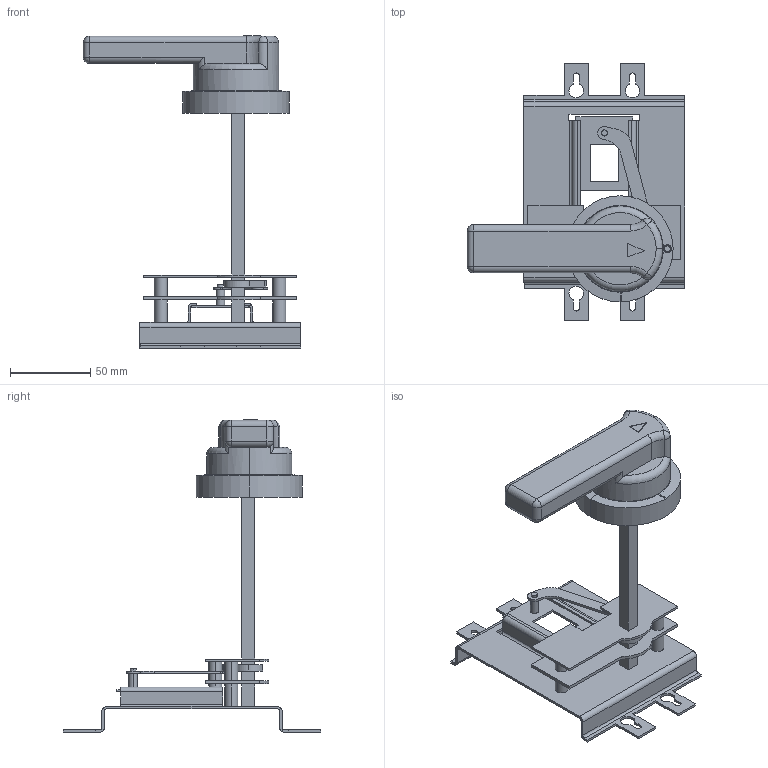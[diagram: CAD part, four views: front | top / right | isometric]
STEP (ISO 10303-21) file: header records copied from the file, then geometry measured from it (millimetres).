
FILE_DESCRIPTION (( 'STEP AP203' ), '1' );
FILE_NAME ('Ðó÷íîé ïîâîðîòíûé ïðèâîä ýêñöåíòðèêîì ê ÂÀ-99Ì 250À.STEP', '2018-06-07T10:40:30', ( '' ), ( '' ), 'SwSTEP 2.0', 'SolidWorks 2017', '' );
FILE_SCHEMA (( 'CONFIG_CONTROL_DESIGN' ));
Length unit declared in the file: millimetre
Products named in the file (1): Ðó÷íîé ïîâîðîòíûé ïðèâîä ýêñöåíòðèêîì ê ÂÀ-99Ì 250À
Bounding box: 135.28 x 160 x 194.2 mm (x, y, z)
Volume: 193960.6 mm3; surface area: 74130.3 mm2
Topology: 1 solids, 1 shells, 241 faces, 665 edges, 431 vertices
Faces by surface type: plane 141, cylinder 79, torus 6, sphere 6, cone 5, bspline 4
Entity records: 7978 total; most frequent: CARTESIAN_POINT 1656, ORIENTED_EDGE 1314, DIRECTION 1279, EDGE_CURVE 657, LINE 451, VECTOR 451, VERTEX_POINT 429, AXIS2_PLACEMENT_3D 414
